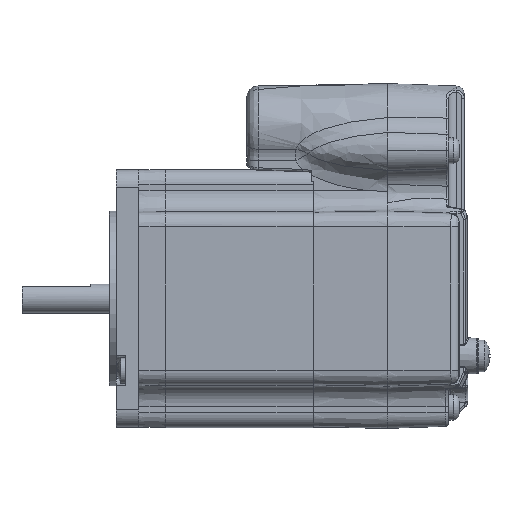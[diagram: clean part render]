
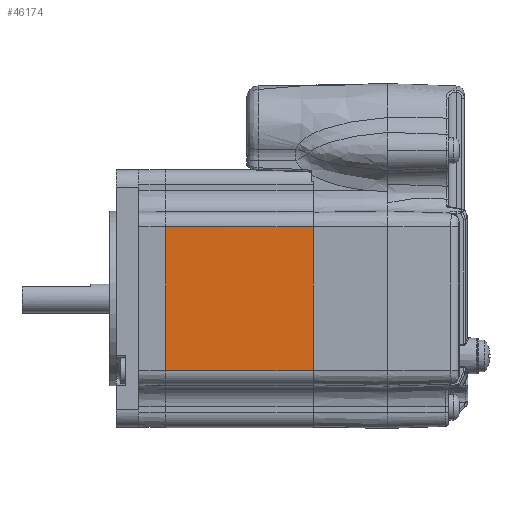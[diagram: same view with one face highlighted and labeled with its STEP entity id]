
A CAD part, left-side view. The second image highlights one B-rep face of the part: STEP entity #46174.
In plain terms, the highlighted planar face has unit normal (-1, 0, 0).
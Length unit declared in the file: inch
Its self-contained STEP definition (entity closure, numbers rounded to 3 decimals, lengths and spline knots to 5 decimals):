
#45151=CARTESIAN_POINT('',(-1.96424,2.93896,-0.67064));
#45152=VERTEX_POINT('',#45151);
#45183=CARTESIAN_POINT('',(-1.96424,2.93896,0.56486));
#45184=VERTEX_POINT('',#45183);
#45185=CARTESIAN_POINT('',(-1.96424,2.93896,0.28689));
#45186=DIRECTION('',(0.,0.,-1.));
#45187=VECTOR('',#45186,1.);
#45188=LINE('',#45185,#45187);
#45189=EDGE_CURVE('',#45184,#45152,#45188,.T.);
#46118=CARTESIAN_POINT('',(-1.96424,1.67113,-0.67064));
#46119=VERTEX_POINT('',#46118);
#46120=CARTESIAN_POINT('',(-1.96424,1.68113,-0.67064));
#46121=DIRECTION('',(0.,1.,0.));
#46122=VECTOR('',#46121,1.);
#46123=LINE('',#46120,#46122);
#46124=EDGE_CURVE('',#46119,#45152,#46123,.T.);
#46151=CARTESIAN_POINT('',(-1.96424,1.67113,0.56486));
#46152=VERTEX_POINT('',#46151);
#46153=CARTESIAN_POINT('',(-1.96424,1.68113,0.56486));
#46154=DIRECTION('',(0.,-1.,0.));
#46155=VECTOR('',#46154,1.);
#46156=LINE('',#46153,#46155);
#46157=EDGE_CURVE('',#45184,#46152,#46156,.T.);
#46158=ORIENTED_EDGE('',*,*,#46157,.F.);
#46159=ORIENTED_EDGE('',*,*,#45189,.T.);
#46160=ORIENTED_EDGE('',*,*,#46124,.F.);
#46161=CARTESIAN_POINT('',(-1.96424,1.67113,0.28689));
#46162=DIRECTION('',(0.,0.,1.));
#46163=VECTOR('',#46162,1.);
#46164=LINE('',#46161,#46163);
#46165=EDGE_CURVE('',#46119,#46152,#46164,.T.);
#46166=ORIENTED_EDGE('',*,*,#46165,.T.);
#46167=EDGE_LOOP('',(#46158,#46159,#46160,#46166));
#46168=FACE_OUTER_BOUND('',#46167,.T.);
#46169=CARTESIAN_POINT('',(-1.96424,1.68113,0.62667));
#46170=DIRECTION('',(-1.,0.,0.));
#46171=DIRECTION('',(0.,0.,1.));
#46172=AXIS2_PLACEMENT_3D('',#46169,#46170,#46171);
#46173=PLANE('',#46172);
#46174=ADVANCED_FACE('',(#46168),#46173,.T.);
